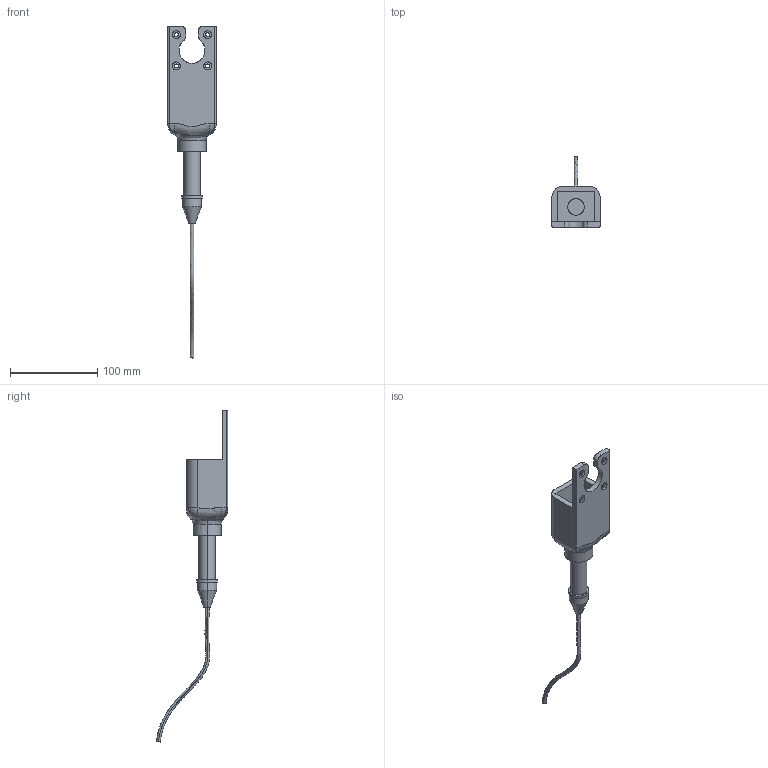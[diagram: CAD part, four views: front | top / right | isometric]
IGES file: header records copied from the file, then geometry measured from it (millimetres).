
Start section: SolidWorks IGES file using analytic representation for surfaces
Global section: file name: W:\Teams\Mech\SE data\Product_Lines\Sensors\Website models\LSCB1000\IGES\LSCB1000.IGS; native system: SolidWorks 2022; preprocessor: SolidWorks 2022; author: joseph.cirabisi; date: 240812.110257; units: inch
Bounding box: 55.24 x 81.61 x 380.94 mm (x, y, z)
Surface area: 43105.8 mm2 (no closed solid volume)
Topology: 0 solids, 0 shells, 84 faces, 1648 edges, 1646 vertices
Faces by surface type: revolution 46, bspline 38
